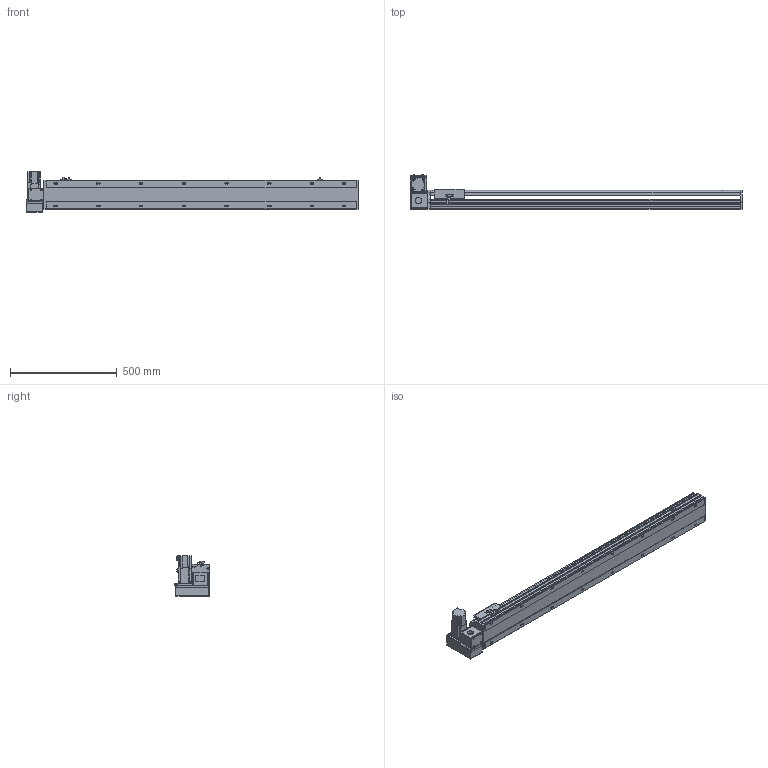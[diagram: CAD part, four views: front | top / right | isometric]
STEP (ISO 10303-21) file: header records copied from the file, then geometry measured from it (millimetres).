
FILE_DESCRIPTION( ( 'STEP AP214' ), '1' );
FILE_NAME( 'x:/temp/worker_6/temp/exporttempdir_5396_130_QQzpM/format_0/PBS140S-P40-S1200-LU-T40-C1-N(0).stp', '2022-06-09T00:34:23', ( 'License CC BY-ND 4.0' ), ( 'CADENAS' ), ' ', 'PARTsolutions', ' ' );
FILE_SCHEMA( ( 'AUTOMOTIVE_DESIGN { 1 0 10303 214 1 1 1 1 }' ) );
Length unit declared in the file: millimetre
Products named in the file (7): PBS140S-P40-S1200-LU-T40-C1-N(0); _PBS140S-S1200()_body; _PBS140ST-LU_motors; _T40-p1; _PBS140S_sliser; _PBS140S_plant; _PBS140S_sensor
Assembly tree (8 placements, depth 2):
  PBS140S-P40-S1200-LU-T40-C1-N(0)
    _PBS140S-S1200()_body
    _PBS140ST-LU_motors
    _T40-p1
    _PBS140S_sliser
    _PBS140S_plant
    _PBS140S_sensor  x3
Bounding box: 1554 x 162.5 x 189.7 mm (x, y, z)
Volume: 7950649.4 mm3; surface area: 1367947.5 mm2
Topology: 8 solids, 8 shells, 1099 faces, 2911 edges, 1905 vertices
Faces by surface type: plane 702, cylinder 345, cone 42, sphere 8, torus 2
Full cylindrical faces by diameter (mm): 3.242 x4, 4 x2, 4.134 x4, 4.4 x8, 4.5 x2, 4.8 x4, 4.917 x24, 5.5 x7, 6 x2, 7 x18, 7.5 x8, 8 x12, 8.5 x4, 10.5 x16, 14 x1, 30 x2, 50 x2
Entity records: 40336 total; most frequent: CARTESIAN_POINT 6406, DIRECTION 5348, ORIENTED_EDGE 5062, EDGE_CURVE 2531, AXIS2_PLACEMENT_3D 1859, VERTEX_POINT 1753, LINE 1630, VECTOR 1630
